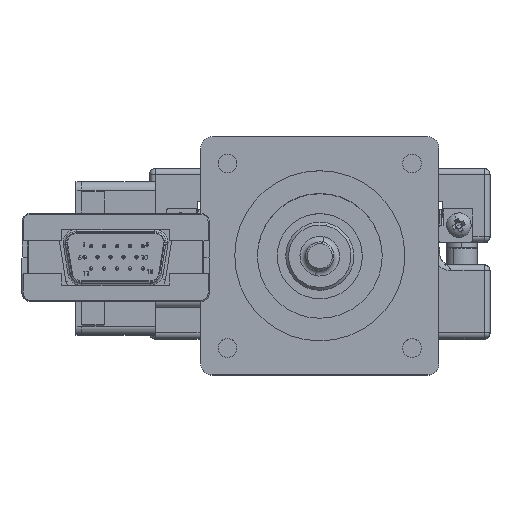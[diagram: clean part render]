
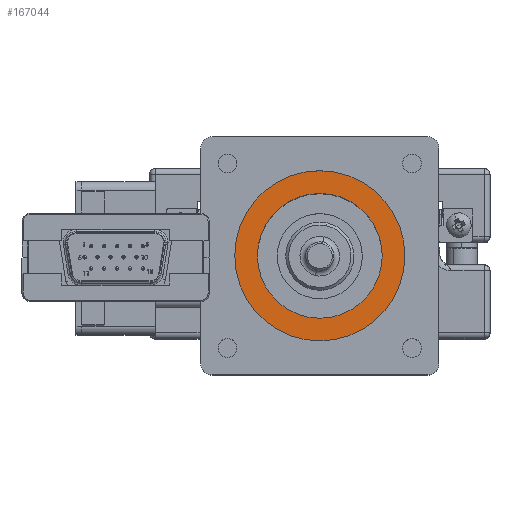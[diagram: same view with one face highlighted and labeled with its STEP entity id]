
A CAD part, top view. The second image highlights one B-rep face of the part: STEP entity #167044.
In plain terms, the highlighted planar face has unit normal (0, 0, 1).
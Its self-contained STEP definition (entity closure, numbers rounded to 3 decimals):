
#479 = CARTESIAN_POINT ( 'NONE',  ( 0., 14.5, 52. ) ) ;
#3465 = EDGE_CURVE ( 'NONE', #167125, #160838, #10146, .T. ) ;
#5774 = DIRECTION ( 'NONE',  ( 1., 0., 0. ) ) ;
#10146 = CIRCLE ( 'NONE', #56035, 11. ) ;
#14008 = FACE_BOUND ( 'NONE', #147636, .T. ) ;
#14327 = CIRCLE ( 'NONE', #109694, 15. ) ;
#24343 = DIRECTION ( 'NONE',  ( 1., 0., 0. ) ) ;
#31102 = AXIS2_PLACEMENT_3D ( 'NONE', #151513, #122579, #125084 ) ;
#38654 = ORIENTED_EDGE ( 'NONE', *, *, #116768, .T. ) ;
#39370 = EDGE_CURVE ( 'NONE', #160838, #167125, #71270, .T. ) ;
#40442 = DIRECTION ( 'NONE',  ( 0., 0., 1. ) ) ;
#53239 = CARTESIAN_POINT ( 'NONE',  ( -11., 14.5, 52. ) ) ;
#56035 = AXIS2_PLACEMENT_3D ( 'NONE', #94524, #70617, #5774 ) ;
#70617 = DIRECTION ( 'NONE',  ( 0., 0., -1. ) ) ;
#71270 = CIRCLE ( 'NONE', #112176, 11. ) ;
#72114 = AXIS2_PLACEMENT_3D ( 'NONE', #92485, #40442, #91641 ) ;
#73401 = CARTESIAN_POINT ( 'NONE',  ( 0., 14.5, 52. ) ) ;
#78010 = PLANE ( 'NONE',  #72114 ) ;
#82758 = EDGE_LOOP ( 'NONE', ( #98345, #38654 ) ) ;
#90897 = DIRECTION ( 'NONE',  ( 0., 0., 1. ) ) ;
#91641 = DIRECTION ( 'NONE',  ( 1., 0., 0. ) ) ;
#92485 = CARTESIAN_POINT ( 'NONE',  ( 0., 14.5, 52. ) ) ;
#92635 = CARTESIAN_POINT ( 'NONE',  ( 15., 14.5, 52. ) ) ;
#94524 = CARTESIAN_POINT ( 'NONE',  ( 0., 14.5, 52. ) ) ;
#98345 = ORIENTED_EDGE ( 'NONE', *, *, #138085, .T. ) ;
#104702 = CIRCLE ( 'NONE', #31102, 15. ) ;
#109694 = AXIS2_PLACEMENT_3D ( 'NONE', #479, #90897, #24343 ) ;
#112176 = AXIS2_PLACEMENT_3D ( 'NONE', #73401, #150168, #124577 ) ;
#116768 = EDGE_CURVE ( 'NONE', #145068, #118675, #14327, .T. ) ;
#118675 = VERTEX_POINT ( 'NONE', #92635 ) ;
#122579 = DIRECTION ( 'NONE',  ( 0., 0., 1. ) ) ;
#124577 = DIRECTION ( 'NONE',  ( 1., 0., 0. ) ) ;
#125084 = DIRECTION ( 'NONE',  ( 1., 0., 0. ) ) ;
#130886 = FACE_OUTER_BOUND ( 'NONE', #82758, .T. ) ;
#136617 = ORIENTED_EDGE ( 'NONE', *, *, #39370, .T. ) ;
#138085 = EDGE_CURVE ( 'NONE', #118675, #145068, #104702, .T. ) ;
#145068 = VERTEX_POINT ( 'NONE', #165955 ) ;
#147041 = ORIENTED_EDGE ( 'NONE', *, *, #3465, .T. ) ;
#147636 = EDGE_LOOP ( 'NONE', ( #147041, #136617 ) ) ;
#150168 = DIRECTION ( 'NONE',  ( 0., 0., -1. ) ) ;
#151513 = CARTESIAN_POINT ( 'NONE',  ( 0., 14.5, 52. ) ) ;
#151946 = CARTESIAN_POINT ( 'NONE',  ( 11., 14.5, 52. ) ) ;
#160838 = VERTEX_POINT ( 'NONE', #53239 ) ;
#165955 = CARTESIAN_POINT ( 'NONE',  ( -15., 14.5, 52. ) ) ;
#167044 = ADVANCED_FACE ( 'NONE', ( #14008, #130886 ), #78010, .T. ) ;
#167125 = VERTEX_POINT ( 'NONE', #151946 ) ;
